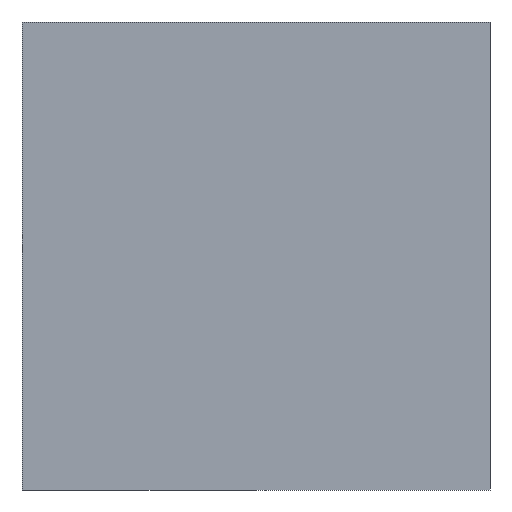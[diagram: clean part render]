
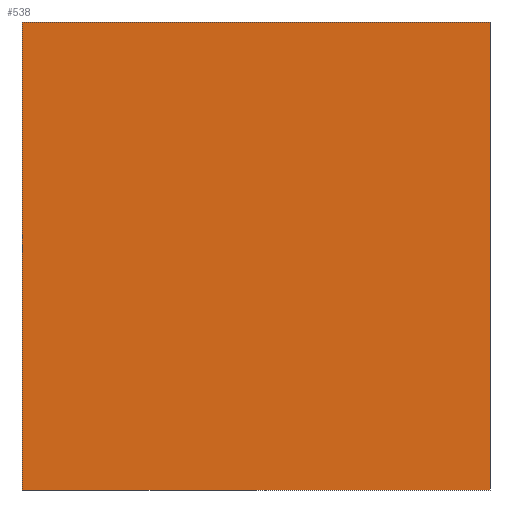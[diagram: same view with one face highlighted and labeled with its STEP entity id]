
A CAD part, left-side view. The second image highlights one B-rep face of the part: STEP entity #538.
In plain terms, the highlighted planar face has unit normal (-1, 0, 0).
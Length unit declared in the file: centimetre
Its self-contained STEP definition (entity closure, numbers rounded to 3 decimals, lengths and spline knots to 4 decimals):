
#26 = CARTESIAN_POINT ( 'NONE',  ( 0., 0., 0. ) ) ;
#28 = VECTOR ( 'NONE', #465, 100. ) ;
#34 = EDGE_CURVE ( 'NONE', #280, #235, #311, .T. ) ;
#35 = EDGE_CURVE ( 'NONE', #414, #302, #308, .T. ) ;
#46 = LINE ( 'NONE', #411, #28 ) ;
#49 = ORIENTED_EDGE ( 'NONE', *, *, #586, .T. ) ;
#66 = DIRECTION ( 'NONE',  ( 0., 0., -1. ) ) ;
#92 = DIRECTION ( 'NONE',  ( 0., -1., 0. ) ) ;
#131 = PLANE ( 'NONE',  #359 ) ;
#138 = ORIENTED_EDGE ( 'NONE', *, *, #35, .F. ) ;
#141 = VECTOR ( 'NONE', #500, 100. ) ;
#157 = ORIENTED_EDGE ( 'NONE', *, *, #254, .F. ) ;
#202 = CARTESIAN_POINT ( 'NONE',  ( 0., 0., 1000. ) ) ;
#223 = VECTOR ( 'NONE', #66, 100. ) ;
#235 = VERTEX_POINT ( 'NONE', #331 ) ;
#243 = ORIENTED_EDGE ( 'NONE', *, *, #34, .T. ) ;
#254 = EDGE_CURVE ( 'NONE', #280, #414, #46, .T. ) ;
#280 = VERTEX_POINT ( 'NONE', #590 ) ;
#302 = VERTEX_POINT ( 'NONE', #26 ) ;
#308 = LINE ( 'NONE', #202, #223 ) ;
#311 = LINE ( 'NONE', #427, #141 ) ;
#324 = FACE_OUTER_BOUND ( 'NONE', #511, .T. ) ;
#331 = CARTESIAN_POINT ( 'NONE',  ( 0., 1000., 0. ) ) ;
#339 = LINE ( 'NONE', #467, #369 ) ;
#359 = AXIS2_PLACEMENT_3D ( 'NONE', #510, #403, #371 ) ;
#369 = VECTOR ( 'NONE', #92, 100. ) ;
#371 = DIRECTION ( 'NONE',  ( 0., 0., -1. ) ) ;
#403 = DIRECTION ( 'NONE',  ( 1., 0., 0. ) ) ;
#411 = CARTESIAN_POINT ( 'NONE',  ( 0., 1000., 1000. ) ) ;
#414 = VERTEX_POINT ( 'NONE', #448 ) ;
#427 = CARTESIAN_POINT ( 'NONE',  ( 0., 1000., 1000. ) ) ;
#448 = CARTESIAN_POINT ( 'NONE',  ( 0., 0., 1000. ) ) ;
#465 = DIRECTION ( 'NONE',  ( 0., -1., 0. ) ) ;
#467 = CARTESIAN_POINT ( 'NONE',  ( 0., 1000., 0. ) ) ;
#500 = DIRECTION ( 'NONE',  ( 0., 0., -1. ) ) ;
#510 = CARTESIAN_POINT ( 'NONE',  ( 0., 1000., 1000. ) ) ;
#511 = EDGE_LOOP ( 'NONE', ( #49, #138, #157, #243 ) ) ;
#538 = ADVANCED_FACE ( 'NONE', ( #324 ), #131, .F. ) ;
#586 = EDGE_CURVE ( 'NONE', #235, #302, #339, .T. ) ;
#590 = CARTESIAN_POINT ( 'NONE',  ( 0., 1000., 1000. ) ) ;
